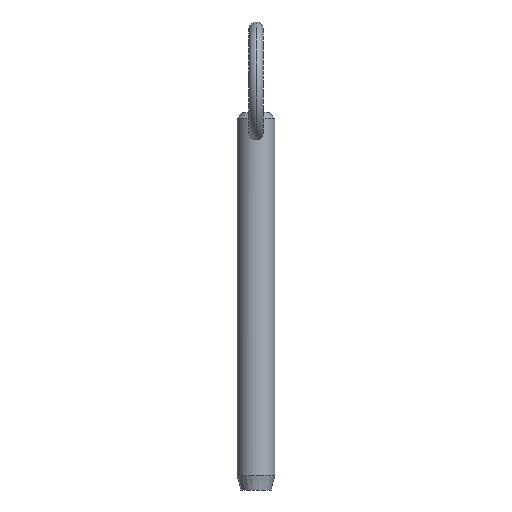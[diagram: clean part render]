
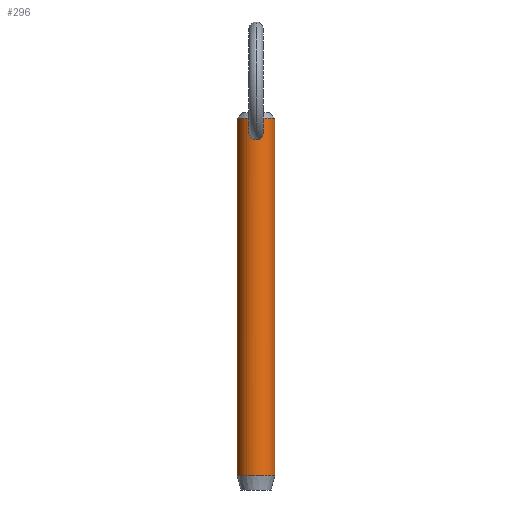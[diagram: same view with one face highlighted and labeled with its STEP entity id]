
A CAD part, front view. The second image highlights one B-rep face of the part: STEP entity #296.
In plain terms, the highlighted cylindrical face has radius 3.965 mm (diameter 7.93 mm), a partial arc.
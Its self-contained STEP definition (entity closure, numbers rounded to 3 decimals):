
#3 = FACE_BOUND ( 'NONE', #65, .T. ) ;
#4 = VERTEX_POINT ( 'NONE', #263 ) ;
#5 = CARTESIAN_POINT ( 'NONE',  ( 0.693, -3.905, 64.29 ) ) ;
#6 = DIRECTION ( 'NONE',  ( -1., 0., 0. ) ) ;
#12 = ORIENTED_EDGE ( 'NONE', *, *, #133, .T. ) ;
#14 = CARTESIAN_POINT ( 'NONE',  ( -1.335, -3.734, 64.91 ) ) ;
#28 = CARTESIAN_POINT ( 'NONE',  ( -3.965, 0., 68.65 ) ) ;
#30 = VERTEX_POINT ( 'NONE', #383 ) ;
#40 = CARTESIAN_POINT ( 'NONE',  ( 1.346, -3.73, 64.908 ) ) ;
#41 = CARTESIAN_POINT ( 'NONE',  ( 0.498, -3.935, 67.244 ) ) ;
#59 = CARTESIAN_POINT ( 'NONE',  ( 0., -3.965, 64.135 ) ) ;
#61 = CARTESIAN_POINT ( 'NONE',  ( -0.41, -3.948, 64.174 ) ) ;
#65 = EDGE_LOOP ( 'NONE', ( #236, #12 ) ) ;
#72 = ORIENTED_EDGE ( 'NONE', *, *, #436, .T. ) ;
#73 = CARTESIAN_POINT ( 'NONE',  ( 0., 0., 63.5 ) ) ;
#82 = CARTESIAN_POINT ( 'NONE',  ( 0., -3.965, 64.135 ) ) ;
#85 = CARTESIAN_POINT ( 'NONE',  ( 1.493, -3.673, 65.804 ) ) ;
#86 = CARTESIAN_POINT ( 'NONE',  ( 0.77, -3.894, 67.1 ) ) ;
#89 = CARTESIAN_POINT ( 'NONE',  ( 1.499, -3.671, 65.497 ) ) ;
#96 = CARTESIAN_POINT ( 'NONE',  ( -0.498, -3.935, 67.244 ) ) ;
#102 = CARTESIAN_POINT ( 'NONE',  ( -0.77, -3.894, 67.1 ) ) ;
#108 = DIRECTION ( 'NONE',  ( 0., 0., -1. ) ) ;
#110 = EDGE_CURVE ( 'NONE', #194, #4, #496, .T. ) ;
#111 = CARTESIAN_POINT ( 'NONE',  ( 3.965, 0., 68.65 ) ) ;
#122 = CARTESIAN_POINT ( 'NONE',  ( 1.237, -3.77, 64.731 ) ) ;
#124 = CIRCLE ( 'NONE', #288, 3.965 ) ;
#133 = EDGE_CURVE ( 'NONE', #181, #30, #174, .T. ) ;
#137 = DIRECTION ( 'NONE',  ( 0., 0., -1. ) ) ;
#143 = LINE ( 'NONE', #222, #235 ) ;
#149 = B_SPLINE_CURVE_WITH_KNOTS ( 'NONE', 3,
 ( #347, #381, #315, #206, #41, #86, #203, #273, #430, #350, #202, #313, #85, #157, #89, #474, #160, #40, #122, #348, #238, #278, #5, #395, #241, #82 ),
 .UNSPECIFIED., .F., .F.,
 ( 4, 2, 2, 2, 2, 2, 2, 2, 2, 2, 2, 2, 4 ),
 ( 0.004, 0.005, 0.005, 0.005, 0.006, 0.006, 0.007, 0.007, 0.007, 0.008, 0.008, 0.008, 0.009 ),
 .UNSPECIFIED. ) ;
#157 = CARTESIAN_POINT ( 'NONE',  ( 1.503, -3.669, 65.599 ) ) ;
#160 = CARTESIAN_POINT ( 'NONE',  ( 1.447, -3.692, 65.193 ) ) ;
#169 = CARTESIAN_POINT ( 'NONE',  ( -0.403, -3.946, 67.282 ) ) ;
#172 = CARTESIAN_POINT ( 'NONE',  ( -1.48, -3.679, 65.289 ) ) ;
#174 = B_SPLINE_CURVE_WITH_KNOTS ( 'NONE', 3,
 ( #59, #253, #61, #367, #330, #490, #495, #14, #326, #172, #366, #177, #218, #492, #405, #251, #102, #96, #169, #290, #363, #441 ),
 .UNSPECIFIED., .F., .F.,
 ( 4, 2, 2, 2, 2, 2, 2, 2, 2, 2, 4 ),
 ( 0.009, 0.01, 0.01, 0.011, 0.011, 0.012, 0.012, 0.013, 0.013, 0.014, 0.014 ),
 .UNSPECIFIED. ) ;
#176 = AXIS2_PLACEMENT_3D ( 'NONE', #73, #108, #229 ) ;
#177 = CARTESIAN_POINT ( 'NONE',  ( -1.488, -3.675, 65.905 ) ) ;
#180 = ORIENTED_EDGE ( 'NONE', *, *, #243, .T. ) ;
#181 = VERTEX_POINT ( 'NONE', #328 ) ;
#188 = EDGE_CURVE ( 'NONE', #194, #281, #124, .T. ) ;
#194 = VERTEX_POINT ( 'NONE', #111 ) ;
#202 = CARTESIAN_POINT ( 'NONE',  ( 1.434, -3.697, 66.105 ) ) ;
#203 = CARTESIAN_POINT ( 'NONE',  ( 0.925, -3.858, 66.968 ) ) ;
#206 = CARTESIAN_POINT ( 'NONE',  ( 0.404, -3.946, 67.282 ) ) ;
#216 = CARTESIAN_POINT ( 'NONE',  ( 3.965, 0., 63.5 ) ) ;
#218 = CARTESIAN_POINT ( 'NONE',  ( -1.441, -3.695, 66.108 ) ) ;
#222 = CARTESIAN_POINT ( 'NONE',  ( -3.965, 0., 63.5 ) ) ;
#229 = DIRECTION ( 'NONE',  ( -1., 0., 0. ) ) ;
#235 = VECTOR ( 'NONE', #372, 1000. ) ;
#236 = ORIENTED_EDGE ( 'NONE', *, *, #427, .T. ) ;
#238 = CARTESIAN_POINT ( 'NONE',  ( 0.949, -3.851, 64.449 ) ) ;
#240 = FACE_OUTER_BOUND ( 'NONE', #512, .T. ) ;
#241 = CARTESIAN_POINT ( 'NONE',  ( 0.205, -3.965, 64.135 ) ) ;
#243 = EDGE_CURVE ( 'NONE', #281, #488, #143, .T. ) ;
#251 = CARTESIAN_POINT ( 'NONE',  ( -0.925, -3.858, 66.968 ) ) ;
#253 = CARTESIAN_POINT ( 'NONE',  ( -0.205, -3.965, 64.135 ) ) ;
#263 = CARTESIAN_POINT ( 'NONE',  ( 3.965, 0., -6.52 ) ) ;
#273 = CARTESIAN_POINT ( 'NONE',  ( 1.186, -3.786, 66.659 ) ) ;
#274 = DIRECTION ( 'NONE',  ( 0., 0., 1. ) ) ;
#278 = CARTESIAN_POINT ( 'NONE',  ( 0.782, -3.888, 64.337 ) ) ;
#281 = VERTEX_POINT ( 'NONE', #28 ) ;
#288 = AXIS2_PLACEMENT_3D ( 'NONE', #334, #295, #498 ) ;
#290 = CARTESIAN_POINT ( 'NONE',  ( -0.206, -3.961, 67.334 ) ) ;
#295 = DIRECTION ( 'NONE',  ( 0., 0., -1. ) ) ;
#296 = ADVANCED_FACE ( 'NONE', ( #240, #3 ), #433, .T. ) ;
#300 = CIRCLE ( 'NONE', #502, 3.965 ) ;
#312 = ORIENTED_EDGE ( 'NONE', *, *, #188, .T. ) ;
#313 = CARTESIAN_POINT ( 'NONE',  ( 1.479, -3.679, 65.907 ) ) ;
#315 = CARTESIAN_POINT ( 'NONE',  ( 0.205, -3.961, 67.334 ) ) ;
#326 = CARTESIAN_POINT ( 'NONE',  ( -1.379, -3.718, 65.003 ) ) ;
#328 = CARTESIAN_POINT ( 'NONE',  ( 0., -3.965, 64.135 ) ) ;
#330 = CARTESIAN_POINT ( 'NONE',  ( -0.957, -3.85, 64.441 ) ) ;
#332 = VECTOR ( 'NONE', #137, 1000. ) ;
#333 = ORIENTED_EDGE ( 'NONE', *, *, #110, .F. ) ;
#334 = CARTESIAN_POINT ( 'NONE',  ( 0., 0., 68.65 ) ) ;
#347 = CARTESIAN_POINT ( 'NONE',  ( 0., -3.965, 67.347 ) ) ;
#348 = CARTESIAN_POINT ( 'NONE',  ( 1.028, -3.83, 64.515 ) ) ;
#350 = CARTESIAN_POINT ( 'NONE',  ( 1.404, -3.708, 66.201 ) ) ;
#363 = CARTESIAN_POINT ( 'NONE',  ( -0.102, -3.965, 67.347 ) ) ;
#366 = CARTESIAN_POINT ( 'NONE',  ( -1.508, -3.667, 65.497 ) ) ;
#367 = CARTESIAN_POINT ( 'NONE',  ( -0.788, -3.891, 64.328 ) ) ;
#372 = DIRECTION ( 'NONE',  ( 0., 0., -1. ) ) ;
#381 = CARTESIAN_POINT ( 'NONE',  ( 0.102, -3.965, 67.347 ) ) ;
#383 = CARTESIAN_POINT ( 'NONE',  ( 0., -3.965, 67.347 ) ) ;
#392 = CARTESIAN_POINT ( 'NONE',  ( -3.965, 0., -6.52 ) ) ;
#395 = CARTESIAN_POINT ( 'NONE',  ( 0.409, -3.948, 64.174 ) ) ;
#405 = CARTESIAN_POINT ( 'NONE',  ( -1.186, -3.786, 66.66 ) ) ;
#427 = EDGE_CURVE ( 'NONE', #30, #181, #149, .T. ) ;
#430 = CARTESIAN_POINT ( 'NONE',  ( 1.291, -3.75, 66.483 ) ) ;
#433 = CYLINDRICAL_SURFACE ( 'NONE', #176, 3.965 ) ;
#436 = EDGE_CURVE ( 'NONE', #488, #4, #300, .T. ) ;
#441 = CARTESIAN_POINT ( 'NONE',  ( 0., -3.965, 67.347 ) ) ;
#474 = CARTESIAN_POINT ( 'NONE',  ( 1.471, -3.682, 65.294 ) ) ;
#476 = CARTESIAN_POINT ( 'NONE',  ( 0., 0., -6.52 ) ) ;
#488 = VERTEX_POINT ( 'NONE', #392 ) ;
#490 = CARTESIAN_POINT ( 'NONE',  ( -1.168, -3.79, 64.659 ) ) ;
#492 = CARTESIAN_POINT ( 'NONE',  ( -1.29, -3.75, 66.485 ) ) ;
#495 = CARTESIAN_POINT ( 'NONE',  ( -1.229, -3.77, 64.739 ) ) ;
#496 = LINE ( 'NONE', #216, #332 ) ;
#498 = DIRECTION ( 'NONE',  ( 1., 0., 0. ) ) ;
#502 = AXIS2_PLACEMENT_3D ( 'NONE', #476, #274, #6 ) ;
#512 = EDGE_LOOP ( 'NONE', ( #333, #312, #180, #72 ) ) ;
